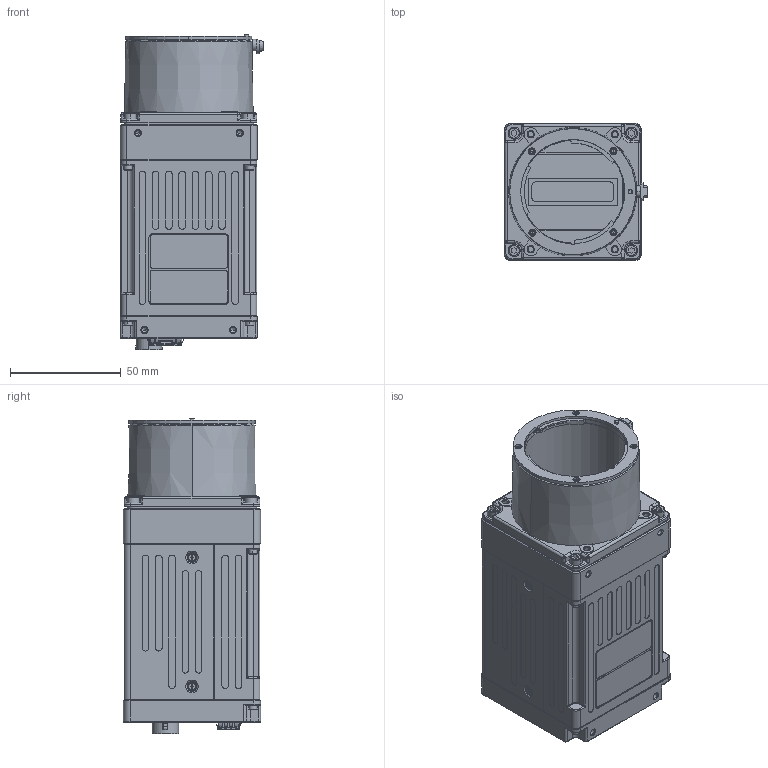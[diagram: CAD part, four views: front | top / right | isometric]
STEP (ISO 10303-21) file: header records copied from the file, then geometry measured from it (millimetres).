
FILE_DESCRIPTION((''),'2;1');
FILE_NAME('SW-4000TL-SFP-F_MOCK_ASM','2019-10-10T',('aso'),(''),'CREO PARAMETRIC BY PTC INC, 2016260','CREO PARAMETRIC BY PTC INC, 2016260','');
FILE_SCHEMA(('CONFIG_CONTROL_DESIGN'));
Products named in the file (1): SW-4000TL-SFP-F_MOCK_ASM
Bounding box: 64.9 x 62 x 142.4 mm (x, y, z)
Surface area: 97774.8 mm2 (no closed solid volume)
Topology: 0 solids, 26 shells, 3795 faces, 10768 edges, 6993 vertices
Faces by surface type: plane 1976, cylinder 1367, cone 243, torus 74, sphere 68, bspline 60, extrusion 7
Entity records: 133121 total; most frequent: CARTESIAN_POINT 33789, DIRECTION 20767, ORIENTED_EDGE 20606, EDGE_CURVE 10626, AXIS2_PLACEMENT_3D 7115, VERTEX_POINT 6993, VECTOR 6537, LINE 6530
